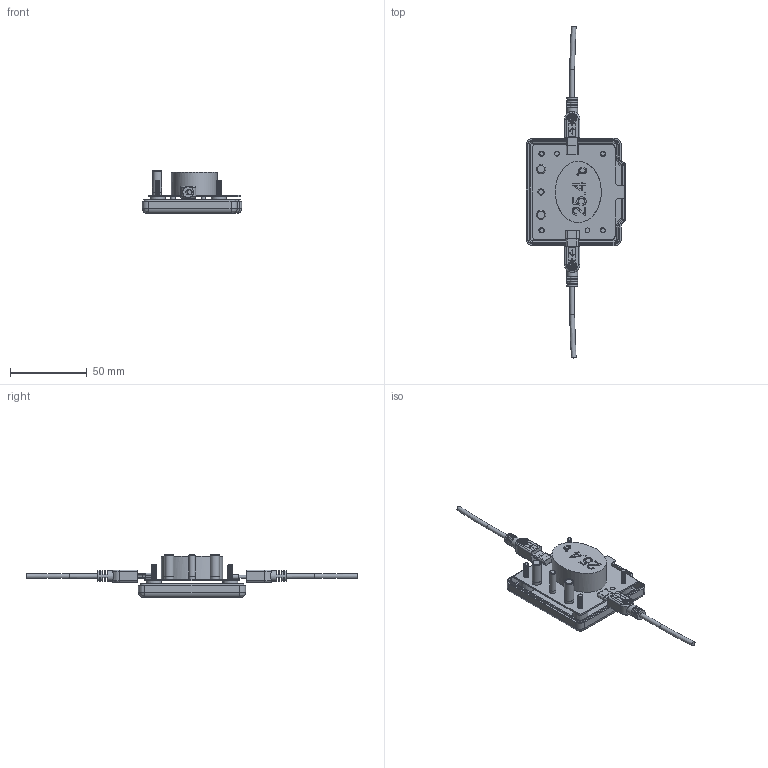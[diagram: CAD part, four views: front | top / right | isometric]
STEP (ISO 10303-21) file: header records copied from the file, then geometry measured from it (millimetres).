
FILE_DESCRIPTION(/* description */ (''),/* implementation_level */ '2;1');
FILE_NAME(/* name */ '6.stp',/* time_stamp */ '2017-05-18T00:51:10+08:00',/* author */ (''),/* organization */ (''),/* preprocessor_version */ 'ST-DEVELOPER v15',/* originating_system */ 'SIEMENS PLM Software NX 8.5',/* authorisation */ '');
FILE_SCHEMA (('AUTOMOTIVE_DESIGN { 1 0 10303 214 3 1 1 1 }'));
Products named in the file (1): Admi1DBCDAC23vom
Bounding box: 65 x 217 x 27.83 mm (x, y, z)
Volume: 34714.3 mm3; surface area: 31830.1 mm2
Topology: 14 solids, 14 shells, 734 faces, 1845 edges, 1212 vertices
Faces by surface type: plane 432, cylinder 211, bspline 32, extrusion 26, torus 17, cone 12, sphere 4
Full cylindrical faces by diameter (mm): 1.024 x1, 2 x2, 3 x7, 3.5 x7, 4 x6, 6 x4, 6.6 x4, 7 x2
Entity records: 56921 total; most frequent: CARTESIAN_POINT 38918, ORIENTED_EDGE 3492, DIRECTION 3468, EDGE_CURVE 1746, AXIS2_PLACEMENT_3D 1222, VERTEX_POINT 1172, VECTOR 1024, LINE 998
